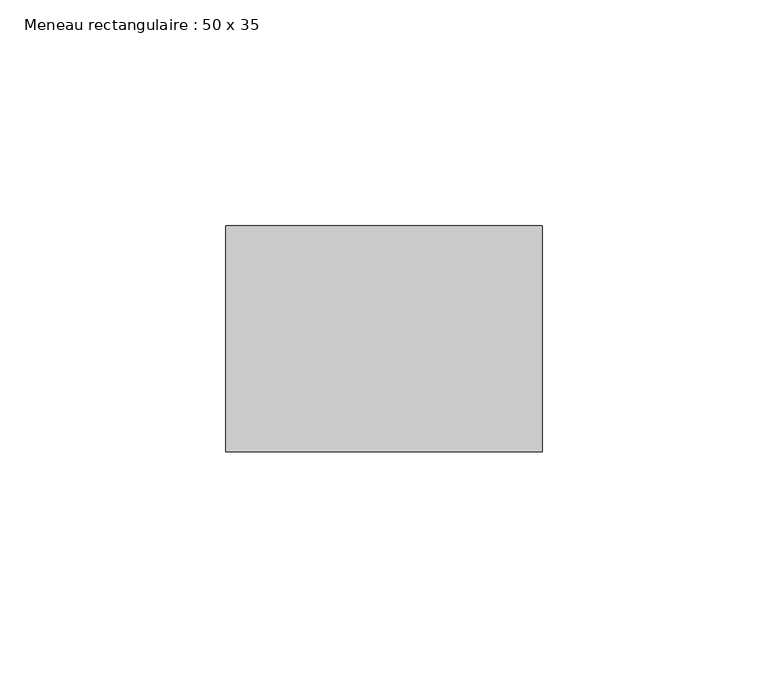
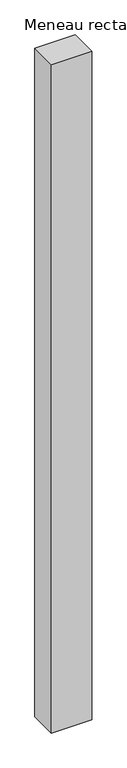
"""IFC4 building model written with IfcOpenShell, lengths in millimetres: member geometry, Meneau rectangulaire : 50 x 35."""

import ifcopenshell
import ifcopenshell.guid

model = None  # the IFC model being written
_history = None  # IfcOwnerHistory: only IFC2X3 demands one
_inside = {}  # id of a spatial element -> (the spatial element, [elements in it])
_under = {}  # id of a project, library or spatial element -> (it, [spatial elements below it])
_declared = {}  # id of a project -> (the project, [libraries it declares])
_typed = {}  # id of a type object -> (the type object, [elements of that type])
_made_of = {}  # id of a material, layer set ... -> (it, [elements and type objects made of it])


def new_model(schema):
    """Start an empty IFC model of exactly this schema.

    Asked for "IFC4X3", IfcOpenShell would pick the latest addendum, in which some entities
    have other attributes; the version numbers below select the first issue.
    IFC2X3 requires an IfcOwnerHistory on every rooted entity: one is made here for all.
    """
    global model, _history
    if schema == "IFC4X3":
        model = ifcopenshell.file(schema_version=(4, 3, 0, 0))
    else:
        model = ifcopenshell.file(schema=schema)
    _inside.clear()
    _under.clear()
    _declared.clear()
    _typed.clear()
    _made_of.clear()
    _history = None
    if model.schema == "IFC2X3":
        org = make("IfcOrganization", Name="unknown")
        user = make(
            "IfcPersonAndOrganization",
            ThePerson=make("IfcPerson", FamilyName="unknown"),
            TheOrganization=org,
        )
        app = make(
            "IfcApplication",
            ApplicationDeveloper=org,
            Version="unknown",
            ApplicationFullName="unknown",
            ApplicationIdentifier="unknown",
        )
        _history = make(
            "IfcOwnerHistory",
            OwningUser=user,
            OwningApplication=app,
            ChangeAction="ADDED",
            CreationDate=0,
        )
    return model


def make(cls, **values):
    """One entity of the class cls with the attributes given. An attribute that is None is left unset."""
    return model.create_entity(
        cls, **{name: value for name, value in values.items() if value is not None}
    )


def rooted(cls, **values):
    """An entity with a GlobalId (a new one), such as an element, a storey or a relation."""
    return make(cls, GlobalId=ifcopenshell.guid.new(), OwnerHistory=_history, **values)


def si_unit(unit_type, name, prefix=None):
    """IfcSIUnit, for example si_unit("LENGTHUNIT", "METRE", prefix="MILLI")."""
    return make("IfcSIUnit", UnitType=unit_type, Prefix=prefix, Name=name)


def assignment(units):
    """IfcUnitAssignment: the units of a project."""
    return None if units is None else make("IfcUnitAssignment", Units=units)


def point(xyz):
    """IfcCartesianPoint."""
    return None if xyz is None else make("IfcCartesianPoint", Coordinates=xyz)


def direction(xyz):
    """IfcDirection."""
    return None if xyz is None else make("IfcDirection", DirectionRatios=xyz)


def frame(location, z_axis=None, x_axis=None):
    """IfcAxis2Placement3D, a coordinate frame: its origin and axes. An axis left out is left unset."""
    return make(
        "IfcAxis2Placement3D",
        Location=point(location),
        Axis=direction(z_axis),
        RefDirection=direction(x_axis),
    )


def origin():
    """The frame at (0, 0, 0) with its axes left unset."""
    return frame((0.0, 0.0, 0.0))


def place(relative_to, where):
    """IfcLocalPlacement: puts the frame where relative to a parent placement (None: the world)."""
    return make(
        "IfcLocalPlacement", PlacementRelTo=relative_to, RelativePlacement=where
    )


def context(
    kind, dimensions, precision=None, world=None, true_north=None, identifier=None
):
    """IfcGeometricRepresentationContext, for example the 3D "Model" context."""
    return make(
        "IfcGeometricRepresentationContext",
        ContextIdentifier=identifier,
        ContextType=kind,
        CoordinateSpaceDimension=dimensions,
        Precision=precision,
        WorldCoordinateSystem=world,
        TrueNorth=true_north,
    )


def project(units=None, contexts=None):
    """IfcProject with its units and contexts."""
    return rooted(
        "IfcProject",
        Name="project",
        RepresentationContexts=contexts,
        UnitsInContext=assignment(units),
    )


def spatial(cls, under=None, at=None, **own):
    """A site, building, storey or space (cls), placed at a placement, below another one or the project."""
    s = rooted(cls, ObjectPlacement=at, **own)
    if under is not None:
        _under.setdefault(under.id(), (under, []))[1].append(s)
    return s


def polyline(points):
    """IfcPolyline through the points."""
    return make("IfcPolyline", Points=[point(p) for p in points])


def outline(outer, holes=None, kind="AREA"):
    """IfcArbitraryClosedProfileDef: a profile drawn as a closed curve; with holes, ...WithVoids."""
    if holes is None:
        return make("IfcArbitraryClosedProfileDef", ProfileType=kind, OuterCurve=outer)
    return make(
        "IfcArbitraryProfileDefWithVoids",
        ProfileType=kind,
        OuterCurve=outer,
        InnerCurves=holes,
    )


def extrude(swept, where, along, depth):
    """IfcExtrudedAreaSolid: the profile swept, set in the frame where, extruded along a direction by depth."""
    return make(
        "IfcExtrudedAreaSolid",
        SweptArea=swept,
        Position=where,
        ExtrudedDirection=direction(along),
        Depth=depth,
    )


def shape(context_of_items, identifier, shape_type, items):
    """IfcShapeRepresentation: the items that make up one representation, for example the "Body"."""
    return make(
        "IfcShapeRepresentation",
        ContextOfItems=context_of_items,
        RepresentationIdentifier=identifier,
        RepresentationType=shape_type,
        Items=items,
    )


def source(mapping_origin, context_of_items, identifier, shape_type, items):
    """IfcRepresentationMap: a shape defined once, which mapped items show again and again."""
    return make(
        "IfcRepresentationMap",
        MappingOrigin=mapping_origin,
        MappedRepresentation=shape(context_of_items, identifier, shape_type, items),
    )


def transform(
    local_origin,
    x_axis=None,
    y_axis=None,
    z_axis=None,
    scale=None,
    scale2=None,
    scale3=None,
    uniform=True,
):
    """IfcCartesianTransformationOperator3D, or its non-uniform kind. x_axis, y_axis, z_axis: its Axis1, 2, 3."""
    if uniform:
        return make(
            "IfcCartesianTransformationOperator3D",
            Axis1=direction(x_axis),
            Axis2=direction(y_axis),
            LocalOrigin=point(local_origin),
            Scale=scale,
            Axis3=direction(z_axis),
        )
    return make(
        "IfcCartesianTransformationOperator3DnonUniform",
        Axis1=direction(x_axis),
        Axis2=direction(y_axis),
        LocalOrigin=point(local_origin),
        Scale=scale,
        Axis3=direction(z_axis),
        Scale2=scale2,
        Scale3=scale3,
    )


def mapped(mapping_source, mapping_target):
    """IfcMappedItem: shows the shape of a source again, moved by a transform."""
    return make(
        "IfcMappedItem", MappingSource=mapping_source, MappingTarget=mapping_target
    )


def made_of(thing, what):
    """Note that an element or type object is made of a material, layer set ...; save() writes the relation."""
    if what is not None:
        _made_of.setdefault(what.id(), (what, []))[1].append(thing)
    return thing


def element(
    cls,
    number,
    at=None,
    inside=None,
    cuts=None,
    type_object=None,
    material=None,
    context=None,
    identifier="Body",
    shape_type=None,
    held_by="IfcProductDefinitionShape",
    body=None,
    shapes=None,
    **own,
):
    """One element of the class cls, such as IfcWall. Its Tag is "e" and its number.

    at: its placement. inside: the storey or other place that contains it. cuts: it is an
    opening in that element (IfcRelVoidsElement). A single representation is given by context,
    identifier, shape_type and body (its items); several are given by shapes. held_by: the class
    of the entity that holds the representations. save() writes the other relations.
    """
    e = rooted(cls, Tag="e%d" % number, ObjectPlacement=at, **own)
    if body is not None:
        shapes = [shape(context, identifier, shape_type, body)]
    if shapes is not None:
        e.Representation = make(held_by, Representations=shapes)
    if inside is not None:
        _inside.setdefault(inside.id(), (inside, []))[1].append(e)
    if cuts is not None:
        rooted(
            "IfcRelVoidsElement", RelatingBuildingElement=cuts, RelatedOpeningElement=e
        )
    if type_object is not None:
        _typed.setdefault(type_object.id(), (type_object, []))[1].append(e)
    return made_of(e, material)


def aggregate(whole, parts):
    """IfcRelAggregates: a whole, such as a stair, and the parts it consists of."""
    return rooted("IfcRelAggregates", RelatingObject=whole, RelatedObjects=parts)


def save(model, path):
    """Write the relations noted so far, then the file.

    IfcRelAggregates (storeys below a building ...), IfcRelContainedInSpatialStructure (elements
    in a storey), IfcRelDefinesByType, IfcRelAssociatesMaterial and IfcRelDeclares: one each for
    every whole, place, type object, material and project.
    """
    for whole, parts in _under.values():
        aggregate(whole, parts)
    for where, things in _inside.values():
        rooted(
            "IfcRelContainedInSpatialStructure",
            RelatedElements=things,
            RelatingStructure=where,
        )
    for kind, things in _typed.values():
        rooted("IfcRelDefinesByType", RelatedObjects=things, RelatingType=kind)
    for what, things in _made_of.values():
        rooted("IfcRelAssociatesMaterial", RelatedObjects=things, RelatingMaterial=what)
    for by, libraries in _declared.values():
        rooted("IfcRelDeclares", RelatingContext=by, RelatedDefinitions=libraries)
    model.write(path)


def meneau_rectangulaire_50_x_35_23689364(model_context):
    return source(origin(), model_context, "Body", "SweptSolid", [
        extrude(outline(polyline([(0.0, 0.0), (0.0, -50.0), (-70.0, -50.0), (-70.0, 0.0), (0.0, 0.0)])), frame((0.0, 0.0, -1232.1902979), z_axis=(0.0, 0.0, 1.0), x_axis=(1.0, 0.0, 0.0)), (0.0, 0.0, 1.0), 1232.1902979),
    ])


if __name__ == "__main__":
    model = new_model("IFC4")
    model_context = context("Model", 3, world=origin())
    ifc_project = project(units=[si_unit("LENGTHUNIT", "METRE", prefix="MILLI")], contexts=[model_context])
    site = spatial("IfcSite", under=ifc_project)
    building = spatial("IfcBuilding", under=site)
    placement = place(None, origin())
    meneau_rectangulaire_50_x_35_shape = meneau_rectangulaire_50_x_35_23689364(model_context)
    element("IfcMember", 1, ObjectType="Meneau rectangulaire : 50 x 35", at=placement, inside=building, context=model_context, shape_type="MappedRepresentation", body=[
        mapped(meneau_rectangulaire_50_x_35_shape, transform((0.0, 0.0, 0.0), x_axis=(1.0, 0.0, 0.0), y_axis=(0.0, 1.0, 0.0), z_axis=(0.0, 0.0, 1.0))),
    ])
    save(model, "model.ifc")
